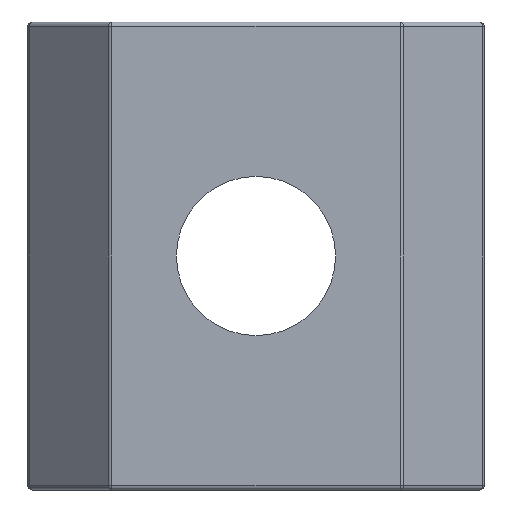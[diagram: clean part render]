
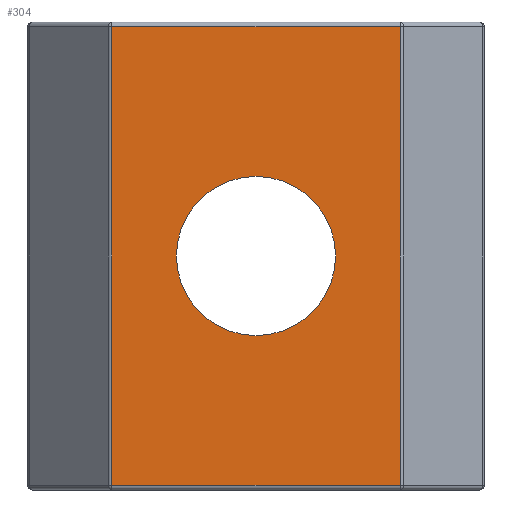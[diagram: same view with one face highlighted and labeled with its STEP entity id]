
A CAD part, front view. The second image highlights one B-rep face of the part: STEP entity #304.
In plain terms, the highlighted planar face has unit normal (0, -1, 0).
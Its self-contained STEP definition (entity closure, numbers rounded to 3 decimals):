
#22 = VERTEX_POINT ( 'NONE', #1080 ) ;
#50 = AXIS2_PLACEMENT_3D ( 'NONE', #618, #1010, #1413 ) ;
#56 = CARTESIAN_POINT ( 'NONE',  ( 6.164, 0., -9.8 ) ) ;
#105 = DIRECTION ( 'NONE',  ( 0., 0., 1. ) ) ;
#198 = VERTEX_POINT ( 'NONE', #56 ) ;
#243 = EDGE_LOOP ( 'NONE', ( #1020, #900 ) ) ;
#288 = EDGE_LOOP ( 'NONE', ( #1067, #1077, #1201, #414 ) ) ;
#291 = VERTEX_POINT ( 'NONE', #612 ) ;
#299 = LINE ( 'NONE', #609, #421 ) ;
#304 = ADVANCED_FACE ( 'NONE', ( #393, #377 ), #1097, .F. ) ;
#377 = FACE_BOUND ( 'NONE', #243, .T. ) ;
#383 = CARTESIAN_POINT ( 'NONE',  ( 6.164, 0., 9.8 ) ) ;
#393 = FACE_OUTER_BOUND ( 'NONE', #288, .T. ) ;
#399 = CARTESIAN_POINT ( 'NONE',  ( 0., 0., 3.4 ) ) ;
#414 = ORIENTED_EDGE ( 'NONE', *, *, #978, .T. ) ;
#421 = VECTOR ( 'NONE', #742, 1000. ) ;
#473 = CARTESIAN_POINT ( 'NONE',  ( -6.164, 0., 10. ) ) ;
#593 = VERTEX_POINT ( 'NONE', #952 ) ;
#609 = CARTESIAN_POINT ( 'NONE',  ( 6.25, 0., -9.8 ) ) ;
#612 = CARTESIAN_POINT ( 'NONE',  ( -6.164, 0., -9.8 ) ) ;
#618 = CARTESIAN_POINT ( 'NONE',  ( -6.25, 0., 10. ) ) ;
#626 = VECTOR ( 'NONE', #1088, 1000. ) ;
#629 = CARTESIAN_POINT ( 'NONE',  ( 0., 0., 0. ) ) ;
#689 = LINE ( 'NONE', #992, #626 ) ;
#728 = VERTEX_POINT ( 'NONE', #399 ) ;
#742 = DIRECTION ( 'NONE',  ( 1., 0., 0. ) ) ;
#767 = DIRECTION ( 'NONE',  ( 0., 0., 1. ) ) ;
#813 = EDGE_CURVE ( 'NONE', #198, #1456, #689, .T. ) ;
#838 = EDGE_CURVE ( 'NONE', #291, #198, #299, .T. ) ;
#886 = DIRECTION ( 'NONE',  ( 0., 1., 0. ) ) ;
#900 = ORIENTED_EDGE ( 'NONE', *, *, #995, .T. ) ;
#930 = EDGE_CURVE ( 'NONE', #593, #291, #1509, .T. ) ;
#952 = CARTESIAN_POINT ( 'NONE',  ( -6.164, 0., 9.8 ) ) ;
#978 = EDGE_CURVE ( 'NONE', #1456, #593, #1480, .T. ) ;
#987 = EDGE_CURVE ( 'NONE', #728, #22, #1458, .T. ) ;
#992 = CARTESIAN_POINT ( 'NONE',  ( 6.164, 0., 10. ) ) ;
#995 = EDGE_CURVE ( 'NONE', #22, #728, #1446, .T. ) ;
#1010 = DIRECTION ( 'NONE',  ( 0., 1., 0. ) ) ;
#1020 = ORIENTED_EDGE ( 'NONE', *, *, #987, .T. ) ;
#1058 = AXIS2_PLACEMENT_3D ( 'NONE', #629, #1395, #767 ) ;
#1067 = ORIENTED_EDGE ( 'NONE', *, *, #930, .T. ) ;
#1077 = ORIENTED_EDGE ( 'NONE', *, *, #838, .T. ) ;
#1080 = CARTESIAN_POINT ( 'NONE',  ( 0., 0., -3.4 ) ) ;
#1088 = DIRECTION ( 'NONE',  ( 0., 0., 1. ) ) ;
#1093 = AXIS2_PLACEMENT_3D ( 'NONE', #1524, #886, #105 ) ;
#1097 = PLANE ( 'NONE',  #50 ) ;
#1201 = ORIENTED_EDGE ( 'NONE', *, *, #813, .T. ) ;
#1376 = DIRECTION ( 'NONE',  ( 0., 0., -1. ) ) ;
#1388 = DIRECTION ( 'NONE',  ( -1., 0., 0. ) ) ;
#1395 = DIRECTION ( 'NONE',  ( 0., 1., 0. ) ) ;
#1413 = DIRECTION ( 'NONE',  ( 0., 0., 1. ) ) ;
#1446 = CIRCLE ( 'NONE', #1058, 3.4 ) ;
#1456 = VERTEX_POINT ( 'NONE', #383 ) ;
#1458 = CIRCLE ( 'NONE', #1093, 3.4 ) ;
#1462 = VECTOR ( 'NONE', #1388, 1000. ) ;
#1480 = LINE ( 'NONE', #1517, #1462 ) ;
#1509 = LINE ( 'NONE', #473, #1526 ) ;
#1517 = CARTESIAN_POINT ( 'NONE',  ( -6.25, 0., 9.8 ) ) ;
#1524 = CARTESIAN_POINT ( 'NONE',  ( 0., 0., 0. ) ) ;
#1526 = VECTOR ( 'NONE', #1376, 1000. ) ;
